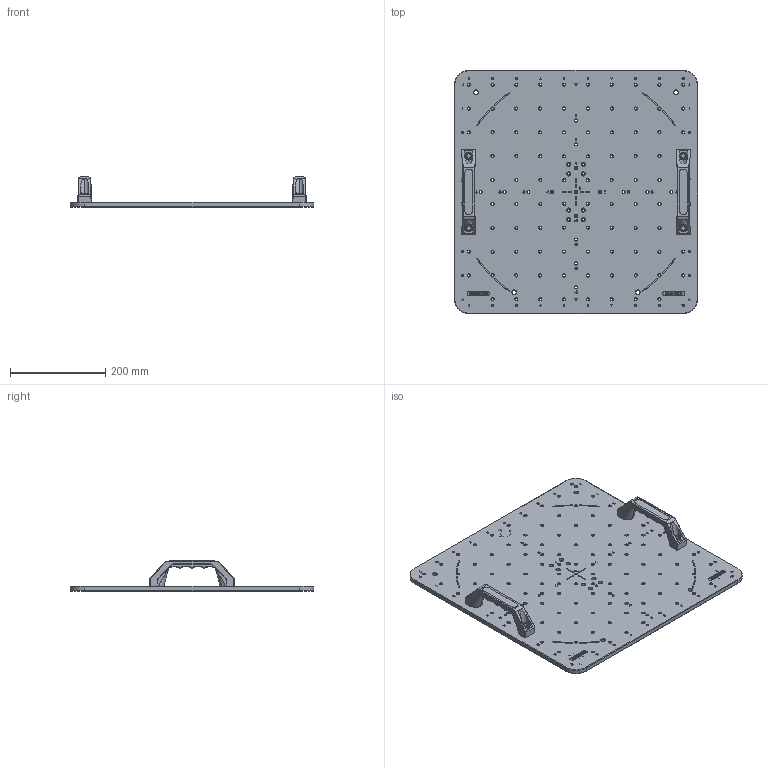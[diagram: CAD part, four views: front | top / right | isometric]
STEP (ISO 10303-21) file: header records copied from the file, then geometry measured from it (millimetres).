
FILE_DESCRIPTION(/* description */ (''),/* implementation_level */ '2;1');
FILE_NAME(/* name */ 'EQ500 M8 STANDARD.stp',/* time_stamp */ '2021-02-17T09:19:50+00:00',/* author */ (''),/* organization */ (''),/* preprocessor_version */ 'ST-DEVELOPER v16.7',/* originating_system */ 'SIEMENS PLM Software NX 1942',/* authorisation */ '');
FILE_SCHEMA (('AUTOMOTIVE_DESIGN { 1 0 10303 214 3 1 1 1 }'));
Products named in the file (1): jh1457B8CC4Bm5fv
Bounding box: 510 x 510 x 63.2 mm (x, y, z)
Volume: 2727601.3 mm3; surface area: 616240.6 mm2
Topology: 18 solids, 18 shells, 1669 faces, 4217 edges, 2755 vertices
Faces by surface type: plane 776, cylinder 432, cone 186, extrusion 151, bspline 100, torus 24
Full cylindrical faces by diameter (mm): 3.4 x6, 4 x6, 4.5 x6, 5.2 x110, 5.5 x8, 6.9 x4, 7.89 x6, 8 x4, 9 x12, 13 x4, 21.5 x3, 22 x3, 42 x3, 43 x3
Entity records: 62731 total; most frequent: CARTESIAN_POINT 22938, ORIENTED_EDGE 7588, DIRECTION 6263, EDGE_CURVE 3794, VERTEX_POINT 2714, EDGE_LOOP 2488, AXIS2_PLACEMENT_3D 2417, ADVANCED_FACE 1669
